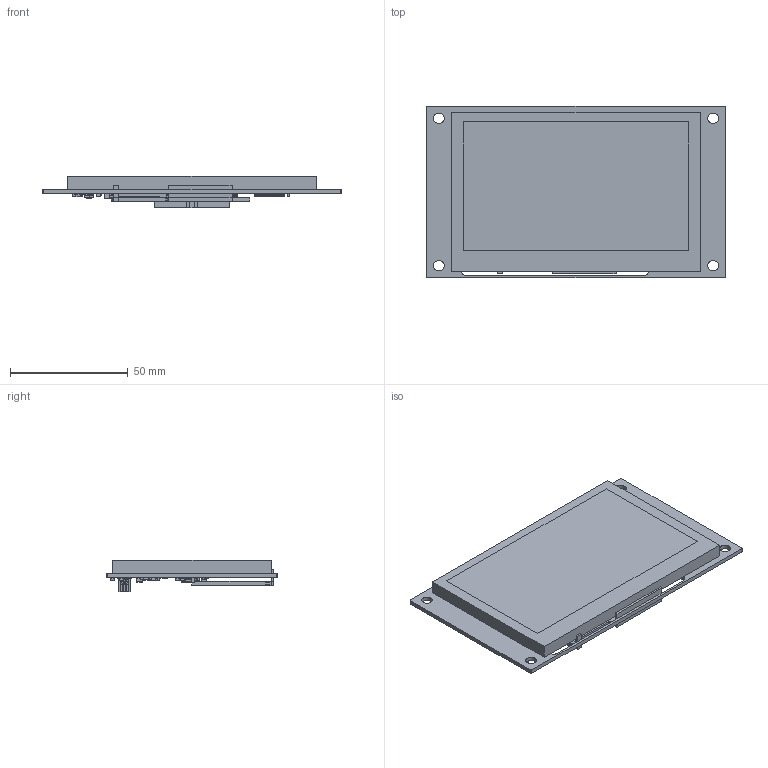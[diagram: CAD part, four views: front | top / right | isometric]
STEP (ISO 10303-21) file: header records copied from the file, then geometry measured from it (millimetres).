
FILE_DESCRIPTION(('Open CASCADE Model'),'2;1');
FILE_NAME('Open CASCADE Shape Model','2025-03-14T16:23:33',('Author'),( 'Open CASCADE'),'Open CASCADE STEP processor 7.5','Open CASCADE 7.5' ,'Unknown');
FILE_SCHEMA(('AUTOMOTIVE_DESIGN { 1 0 10303 214 1 1 1 1 }'));
Length unit declared in the file: millimetre
Products named in the file (109): PCB; Board; Open CASCADE STEP translator 7.5 1.1.1; HW1; 7106193984; Extruded; 7106194464; 7106194304; 7106194144; 7106193904; 7106193744; U4; User Library-VSON_8_3x3_e0p65; U3; TSSOP-14_5X4P40_P065; User Library-TSSOP-14__X2_041A043E0440043F04430441_X0_; User Library-TSSOP-14__X2_041C04350442043A0430_X0_; User Library-TSSOP-14__X2_041D043E0436043A0430_X0_; 7107766480; 7107766320; U2; TSSOP48; User Library-TSSOP-48W__X2_041A043E0440043F04430441_X0_; User Library-TSSOP-48W__X2_041C04350442043A0430_X0_; User Library-TSSOP-48W__X2_041D043E0436043A0430_X0_; 7107766800; U1; R11; R0603; 7107768000; R9; R7; R6; R3; R0805; 7107768320; R2; R1; L3; L0603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
Assembly tree (209 placements, depth 4):
  PCB
    Board
      Open CASCADE STEP translator 7.5 1.1.1
    HW1
      7106193984
        Extruded
      7106194464
        Extruded
      7106194304
        Extruded
      7106194144
        Extruded
      7106193904
        Extruded
      7106193744
        Extruded
    U4
      User Library-VSON_8_3x3_e0p65
    U3
      TSSOP-14_5X4P40_P065
        User Library-TSSOP-14__X2_041A043E0440043F04430441_X0_
        User Library-TSSOP-14__X2_041C04350442043A0430_X0_
        User Library-TSSOP-14__X2_041D043E0436043A0430_X0_  x7
      7107766480
        Extruded
      7107766320
        Extruded
    U2
      TSSOP48
        User Library-TSSOP-48W__X2_041A043E0440043F04430441_X0_
        User Library-TSSOP-48W__X2_041C04350442043A0430_X0_
        User Library-TSSOP-48W__X2_041D043E0436043A0430_X0_  x24
      7107766800
        Extruded
    U1
      TSSOP48
        User Library-TSSOP-48W__X2_041A043E0440043F04430441_X0_
        User Library-TSSOP-48W__X2_041C04350442043A0430_X0_
        User Library-TSSOP-48W__X2_041D043E0436043A0430_X0_  x24
      7107766800
        Extruded
    R11
      R0603
      7107768000
        Extruded
    R9
      R0603
      7107768000
        Extruded
    R7
      R0603
      7107768000
        Extruded
    R6
      R0603
      7107768000
        Extruded
    R3
      R0805
      7107768320
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Bounding box: 127 x 73 x 13.49 mm (x, y, z)
Volume: 88903.3 mm3; surface area: 55998.2 mm2
Topology: 256 solids, 256 shells, 6416 faces, 17204 edges, 11110 vertices
Faces by surface type: plane 5079, cylinder 919, bspline 408, torus 6, sphere 4
Full cylindrical faces by diameter (mm): 4.5 x4
Entity records: 118847 total; most frequent: CARTESIAN_POINT 22214, ORIENTED_EDGE 16508, DIRECTION 14590, EDGE_CURVE 8254, LINE 7564, VECTOR 7564, VERTEX_POINT 5322, AXIS2_PLACEMENT_3D 3513
